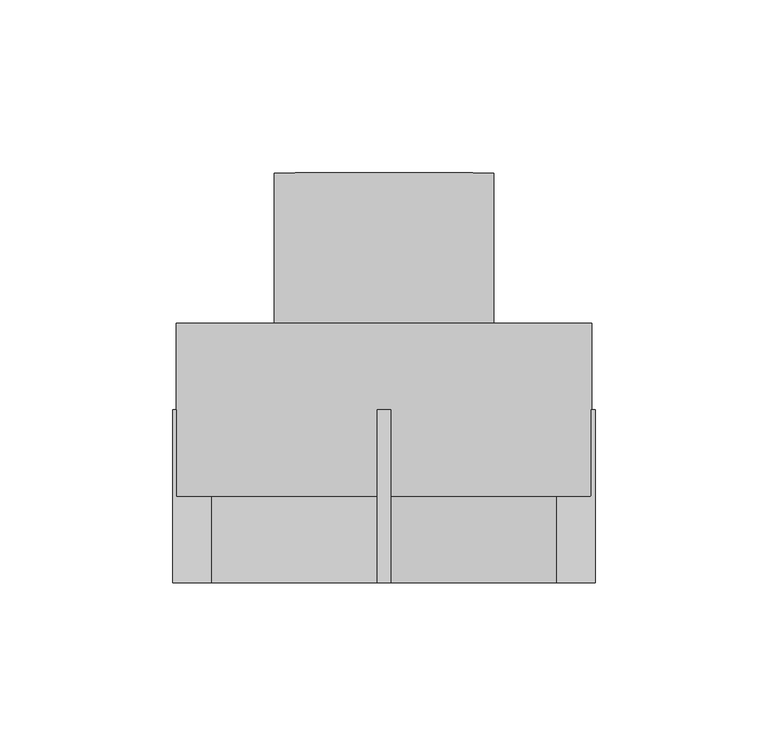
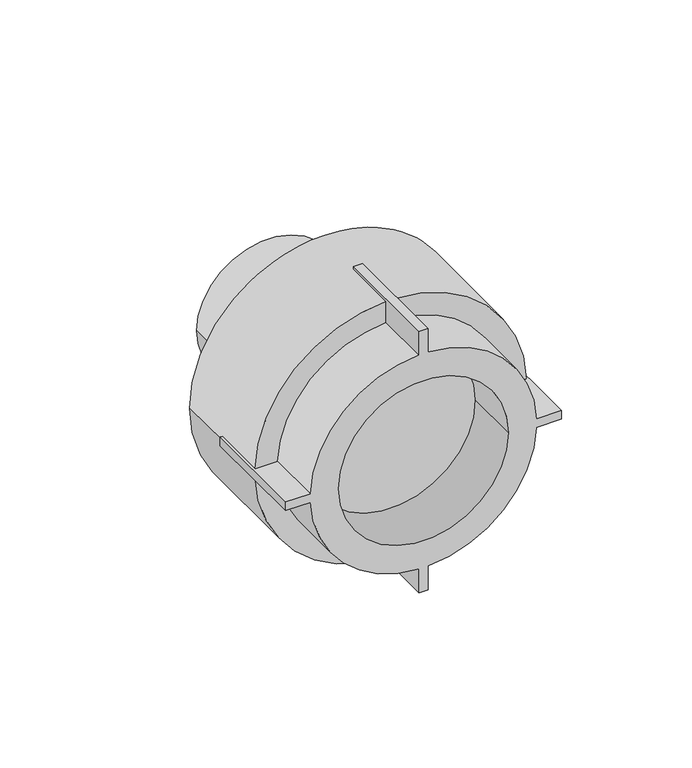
"""IFC4 building model written with IfcOpenShell, lengths in millimetres: pipe fitting geometry, EGB_VASEN_ PPR_Entronque rosca macho WXR101 : Entronque rosca macho WXR101."""

from ifc_helpers import new_model, si_unit, point, frame, origin, origin_2d, place, context, project, spatial, polyline, circle_curve, trimmed, segment, composite_curve, outline, extrude, source, transform, mapped, element, save
from ifc_brep_helpers import plane_surface, cylinder_surface, revolved_surface, advanced_brep


def pipe_fitting_bd397aed(model_context):
    return source(origin(), model_context, "Body", "SolidModel", [
        advanced_brep(
        [(2.0, -25.0, 61.0), (-2.0, -25.0, 61.0), (-2.0, -25.0, 49.959984), (-49.959984, -25.0, 2.0), (-61.0, -25.0, 2.0), (-61.0, -25.0, -2.0), (-49.959984, -25.0, -2.0), (-2.0, -25.0, -49.959984), (-2.0, -25.0, -61.0), (2.0, -25.0, -61.0), (2.0, -25.0, -49.959984), (49.959984, -25.0, -2.0), (61.0, -25.0, -2.0), (61.0, -25.0, 2.0), (49.959984, -25.0, 2.0), (2.0, -25.0, 49.959984), (-37.5, -25.0, 0.0), (37.5, -25.0, 0.0), (-2.0, 25.0, 61.0), (2.0, 25.0, 61.0), (2.0, 25.0, 59.9666574), (-2.0, 25.0, 59.9666574), (2.0, 25.0, -61.0), (-2.0, 25.0, -61.0), (-2.0, 25.0, -59.9666574), (2.0, 25.0, -59.9666574), (61.0, 25.0, 2.0), (61.0, 25.0, -2.0), (59.9666574, 25.0, -2.0), (60.0, 25.0, 0.0), (59.9666574, 25.0, 2.0), (-61.0, 25.0, -2.0), (-61.0, 25.0, 2.0), (-59.9666574, 25.0, 2.0), (-60.0, 25.0, 0.0), (-59.9666574, 25.0, -2.0), (2.0, 0.0, 49.959984), (2.0, 0.0, 59.9666574), (-2.0, 0.0, 59.9666574), (-2.0, 0.0, 49.959984), (2.0, 0.0, -59.9666574), (2.0, 0.0, -49.959984), (-2.0, 0.0, -49.959984), (-2.0, 0.0, -59.9666574), (49.959984, 0.0, -2.0), (59.9666574, 0.0, -2.0), (59.9666574, 0.0, 2.0), (49.959984, 0.0, 2.0), (-59.9666574, 0.0, -2.0), (-49.959984, 0.0, -2.0), (-49.959984, 0.0, 2.0), (-59.9666574, 0.0, 2.0), (-37.5, 0.0, 0.0), (37.5, 0.0, 0.0), (-60.0, 50.0, 0.0), (60.0, 50.0, 0.0)],
        [
            (0, 1),
            (1, 2),
            (2, 3, circle_curve(frame((0.0, -25.0, 0.0), z_axis=(0.0, -1.0, 0.0), x_axis=(1.0, 0.0, 0.0)), 50.0)),
            (3, 4),
            (4, 5),
            (5, 6),
            (6, 7, circle_curve(frame((0.0, -25.0, 0.0), z_axis=(0.0, -1.0, 0.0), x_axis=(1.0, 0.0, 0.0)), 50.0)),
            (7, 8),
            (8, 9),
            (9, 10),
            (10, 11, circle_curve(frame((0.0, -25.0, 0.0), z_axis=(0.0, -1.0, 0.0), x_axis=(1.0, 0.0, 0.0)), 50.0)),
            (11, 12),
            (12, 13),
            (13, 14),
            (14, 15, circle_curve(frame((0.0, -25.0, 0.0), z_axis=(0.0, -1.0, 0.0), x_axis=(1.0, 0.0, 0.0)), 50.0)),
            (15, 0),
            (16, 17, circle_curve(frame((0.0, -25.0, 0.0), z_axis=(0.0, 1.0, 0.0), x_axis=(1.0, 0.0, 0.0)), 37.5)),
            (17, 16, circle_curve(frame((0.0, -25.0, 0.0), z_axis=(0.0, 1.0, 0.0), x_axis=(1.0, 0.0, 0.0)), 37.5)),
            (18, 19),
            (19, 20),
            (20, 21, circle_curve(frame((0.0, 25.0, 0.0), z_axis=(0.0, -1.0, 0.0), x_axis=(1.0, 0.0, 0.0)), 60.0)),
            (21, 18),
            (22, 23),
            (23, 24),
            (24, 25, circle_curve(frame((0.0, 25.0, 0.0), z_axis=(0.0, -1.0, 0.0), x_axis=(1.0, 0.0, 0.0)), 60.0)),
            (25, 22),
            (26, 27),
            (27, 28),
            (28, 29, circle_curve(frame((0.0, 25.0, 0.0), z_axis=(0.0, -1.0, 0.0), x_axis=(1.0, 0.0, 0.0)), 60.0)),
            (29, 30, circle_curve(frame((0.0, 25.0, 0.0), z_axis=(0.0, -1.0, 0.0), x_axis=(1.0, 0.0, 0.0)), 60.0)),
            (30, 26),
            (31, 32),
            (32, 33),
            (33, 34, circle_curve(frame((0.0, 25.0, 0.0), z_axis=(0.0, -1.0, 0.0), x_axis=(1.0, 0.0, 0.0)), 60.0)),
            (34, 35, circle_curve(frame((0.0, 25.0, 0.0), z_axis=(0.0, -1.0, 0.0), x_axis=(1.0, 0.0, 0.0)), 60.0)),
            (35, 31),
            (19, 0),
            (15, 36),
            (36, 37),
            (37, 20),
            (18, 1),
            (21, 38),
            (38, 39),
            (39, 2),
            (8, 23),
            (22, 9),
            (25, 40),
            (40, 41),
            (41, 10),
            (7, 42),
            (42, 43),
            (43, 24),
            (27, 12),
            (11, 44),
            (44, 45),
            (45, 28),
            (26, 13),
            (30, 46),
            (46, 47),
            (47, 14),
            (5, 31),
            (35, 48),
            (48, 49),
            (49, 6),
            (32, 4),
            (3, 50),
            (50, 51),
            (51, 33),
            (49, 42, circle_curve(frame((0.0, 0.0, 0.0), z_axis=(0.0, -1.0, 0.0), x_axis=(1.0, 0.0, 0.0)), 50.0)),
            (41, 44, circle_curve(frame((0.0, 0.0, 0.0), z_axis=(0.0, -1.0, 0.0), x_axis=(1.0, 0.0, 0.0)), 50.0)),
            (39, 50, circle_curve(frame((0.0, 0.0, 0.0), z_axis=(0.0, -1.0, 0.0), x_axis=(1.0, 0.0, 0.0)), 50.0)),
            (47, 36, circle_curve(frame((0.0, 0.0, 0.0), z_axis=(0.0, -1.0, 0.0), x_axis=(1.0, 0.0, 0.0)), 50.0)),
            (16, 52),
            (52, 53, circle_curve(frame((0.0, 0.0, 0.0), z_axis=(0.0, 1.0, 0.0), x_axis=(1.0, 0.0, 0.0)), 37.5)),
            (53, 17),
            (53, 52, circle_curve(frame((0.0, 0.0, 0.0), z_axis=(0.0, 1.0, 0.0), x_axis=(1.0, 0.0, 0.0)), 37.5)),
            (40, 45, circle_curve(frame((0.0, 0.0, 0.0), z_axis=(0.0, -1.0, 0.0), x_axis=(1.0, 0.0, 0.0)), 60.0)),
            (48, 43, circle_curve(frame((0.0, 0.0, 0.0), z_axis=(0.0, -1.0, 0.0), x_axis=(1.0, 0.0, 0.0)), 60.0)),
            (46, 37, circle_curve(frame((0.0, 0.0, 0.0), z_axis=(0.0, -1.0, 0.0), x_axis=(1.0, 0.0, 0.0)), 60.0)),
            (38, 51, circle_curve(frame((0.0, 0.0, 0.0), z_axis=(0.0, -1.0, 0.0), x_axis=(1.0, 0.0, 0.0)), 60.0)),
            (54, 55, circle_curve(frame((0.0, 50.0, 0.0), z_axis=(0.0, 1.0, 0.0), x_axis=(1.0, 0.0, 0.0)), 60.0)),
            (55, 54, circle_curve(frame((0.0, 50.0, 0.0), z_axis=(0.0, 1.0, 0.0), x_axis=(1.0, 0.0, 0.0)), 60.0)),
            (55, 29),
            (34, 54),
        ],
        [
            plane_surface(frame((0.0, -25.0, 0.0), z_axis=(0.0, -1.0, 0.0), x_axis=(0.0, 0.0, 1.0))),
            plane_surface(frame((0.0, 25.0, 0.0), z_axis=(0.0, 1.0, 0.0), x_axis=(0.0, 0.0, 1.0))),
            plane_surface(frame((2.0, -25.0, 49.0), z_axis=(1.0, 0.0, 0.0), x_axis=(0.0, 1.0, 0.0))),
            plane_surface(frame((2.0, -25.0, 61.0), z_axis=(0.0, 0.0, 1.0), x_axis=(0.0, 1.0, 0.0))),
            plane_surface(frame((-2.0, -25.0, 61.0), z_axis=(-1.0, 0.0, 0.0), x_axis=(0.0, 1.0, 0.0))),
            plane_surface(frame((-2.0, -25.0, -61.0), z_axis=(0.0, 0.0, -1.0), x_axis=(0.0, 1.0, 0.0))),
            plane_surface(frame((2.0, -25.0, -61.0), z_axis=(1.0, 0.0, 0.0), x_axis=(0.0, 1.0, 0.0))),
            plane_surface(frame((-2.0, -25.0, -49.0), z_axis=(-1.0, 0.0, 0.0), x_axis=(0.0, 1.0, 0.0))),
            plane_surface(frame((49.0, -25.0, -2.0), z_axis=(0.0, 0.0, -1.0), x_axis=(0.0, 1.0, 0.0))),
            plane_surface(frame((61.0, -25.0, -2.0), z_axis=(1.0, 0.0, 0.0), x_axis=(0.0, 1.0, 0.0))),
            plane_surface(frame((61.0, -25.0, 2.0), z_axis=(0.0, 0.0, 1.0), x_axis=(0.0, 1.0, 0.0))),
            plane_surface(frame((-61.0, -25.0, -2.0), z_axis=(0.0, 0.0, -1.0), x_axis=(0.0, 1.0, 0.0))),
            plane_surface(frame((-49.0, -25.0, 2.0), z_axis=(0.0, 0.0, 1.0), x_axis=(0.0, 1.0, 0.0))),
            plane_surface(frame((-61.0, -25.0, 2.0), z_axis=(-1.0, 0.0, 0.0), x_axis=(0.0, 1.0, 0.0))),
            cylinder_surface(frame((0.0, 0.0, 0.0), z_axis=(0.0, -1.0, 0.0), x_axis=(1.0, 0.0, 0.0)), 50.0),
            revolved_surface(polyline([(37.5, 0.0, 0.0), (37.5, -25.0, 0.0)]), (0.0, 0.0, 0.0), (0.0, 1.0, 0.0)),
            plane_surface(frame((60.0, 0.0, 0.0), z_axis=(0.0, -1.0, 0.0), x_axis=(0.0, 0.0, 1.0))),
            plane_surface(frame((60.0, 50.0, 0.0), z_axis=(0.0, 1.0, 0.0), x_axis=(0.0, 0.0, -1.0))),
            cylinder_surface(frame((0.0, 50.0, 0.0), z_axis=(0.0, -1.0, 0.0), x_axis=(1.0, 0.0, 0.0)), 60.0),
        ],
        [
            (0, [[1, 2, 3, 4, 5, 6, 7, 8, 9, 10, 11, 12, 13, 14, 15, 16], [17, 18]]),
            (1, [[19, 20, 21, 22]]),
            (1, [[23, 24, 25, 26]]),
            (1, [[27, 28, 29, 30, 31]]),
            (1, [[32, 33, 34, 35, 36]]),
            (2, [[37, -16, 38, 39, 40, -20]]),
            (3, [[-1, -37, -19, 41]]),
            (4, [[-41, -22, 42, 43, 44, -2]]),
            (5, [[-9, 45, -23, 46]]),
            (6, [[-46, -26, 47, 48, 49, -10]]),
            (7, [[-45, -8, 50, 51, 52, -24]]),
            (8, [[53, -12, 54, 55, 56, -28]]),
            (9, [[-13, -53, -27, 57]]),
            (10, [[-57, -31, 58, 59, 60, -14]]),
            (11, [[61, -36, 62, 63, 64, -6]]),
            (12, [[65, -4, 66, 67, 68, -33]]),
            (13, [[-5, -65, -32, -61]]),
            (14, [[-7, -64, 69, -50]]),
            (14, [[-11, -49, 70, -54]]),
            (14, [[-3, -44, 71, -66]]),
            (14, [[-15, -60, 72, -38]]),
            (15, [[-17, 73, 74, 75]]),
            (15, [[-18, -75, 76, -73]]),
            (16, [[-74, -76]]),
            (16, [[77, -55, -70, -48]]),
            (16, [[78, -51, -69, -63]]),
            (16, [[79, -39, -72, -59]]),
            (16, [[80, -67, -71, -43]]),
            (17, [[81, 82]]),
            (18, [[-82, 83, -29, -56, -77, -47, -25, -52, -78, -62, -35, 84]]),
            (18, [[-81, -84, -34, -68, -80, -42, -21, -40, -79, -58, -30, -83]]),
        ],
    ),
        extrude(outline(composite_curve([segment(trimmed(circle_curve(origin_2d(), 31.75), [point((0.0, -31.75))], [point((0.0, 31.75))], False, "CARTESIAN"), True, "CONTINUOUS"), segment(trimmed(circle_curve(origin_2d(), 31.75), [point((0.0, 31.75))], [point((0.0, -31.75))], False, "CARTESIAN"), True, "CONTINUOUS")], self_intersect=False)), frame((0.0, 25.0, 0.0), z_axis=(0.0, 1.0, 0.0), x_axis=(0.0, 0.0, 1.0)), (0.0, 0.0, 1.0), 68.5),
    ])


if __name__ == "__main__":
    model = new_model("IFC4")
    model_context = context("Model", 3, world=origin())
    ifc_project = project(units=[si_unit("LENGTHUNIT", "METRE", prefix="MILLI")], contexts=[model_context])
    site = spatial("IfcSite", under=ifc_project)
    building = spatial("IfcBuilding", under=site)
    placement = place(None, origin())
    pipe_fitting_shape = pipe_fitting_bd397aed(model_context)
    element("IfcPipeFitting", 1, ObjectType="EGB_VASEN_ PPR_Entronque rosca macho WXR101 : Entronque rosca macho WXR101", at=placement, inside=building, context=model_context, shape_type="MappedRepresentation", body=[
        mapped(pipe_fitting_shape, transform((0.0, 0.0, 0.0), x_axis=(1.0, 0.0, 0.0), y_axis=(0.0, 1.0, 0.0), z_axis=(0.0, 0.0, 1.0))),
    ])
    save(model, "model.ifc")
